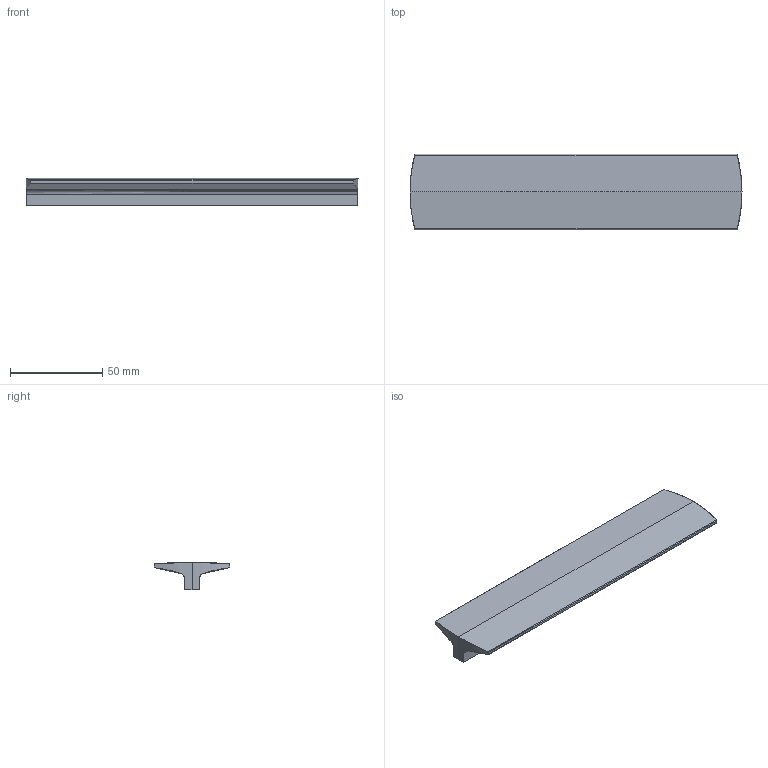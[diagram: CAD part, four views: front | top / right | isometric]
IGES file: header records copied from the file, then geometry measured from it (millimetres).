
Start section: C
Global section: file name: 8236-180.igs; native system: By Siemens PLM Incorporated; preprocessor: XPlus GENERIC/IGES 16.0.42; author: Author; organization: Title; date: 20210331.082446; units: millimetre
Bounding box: 180 x 41 x 15 mm (x, y, z)
Surface area: 18650.3 mm2 (no closed solid volume)
Topology: 0 solids, 0 shells, 18 faces, 98 edges, 98 vertices
Faces by surface type: bspline 18
